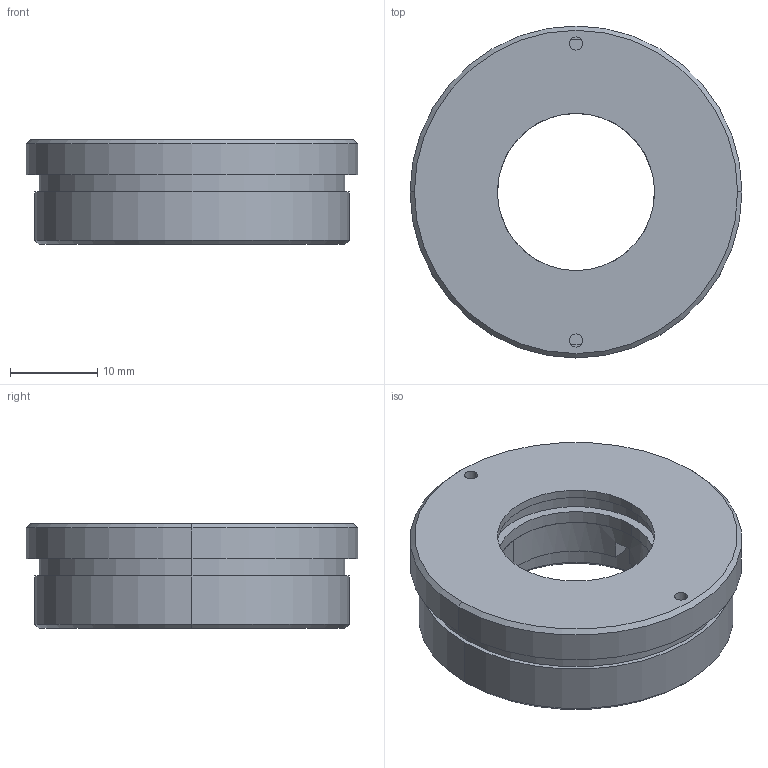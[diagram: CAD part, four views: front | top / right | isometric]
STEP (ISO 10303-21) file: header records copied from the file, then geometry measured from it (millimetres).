
FILE_DESCRIPTION (( 'STEP AP203' ), '1' );
FILE_NAME ('7MA220变径圈.STEP', '2019-10-24T07:29:28', ( '' ), ( '' ), 'SwSTEP 2.0', 'SolidWorks 2014', '' );
FILE_SCHEMA (( 'CONFIG_CONTROL_DESIGN' ));
Length unit declared in the file: millimetre
Products named in the file (1): 7MA220变径圈
Bounding box: 38 x 38 x 12 mm (x, y, z)
Surface area: 4573 mm2 (no closed solid volume)
Topology: 0 solids, 3 shells, 45 faces, 111 edges, 74 vertices
Faces by surface type: cylinder 20, plane 16, cone 9
Entity records: 1437 total; most frequent: DIRECTION 263, CARTESIAN_POINT 243, ORIENTED_EDGE 199, EDGE_CURVE 111, AXIS2_PLACEMENT_3D 110, VERTEX_POINT 74, CIRCLE 64, EDGE_LOOP 55
